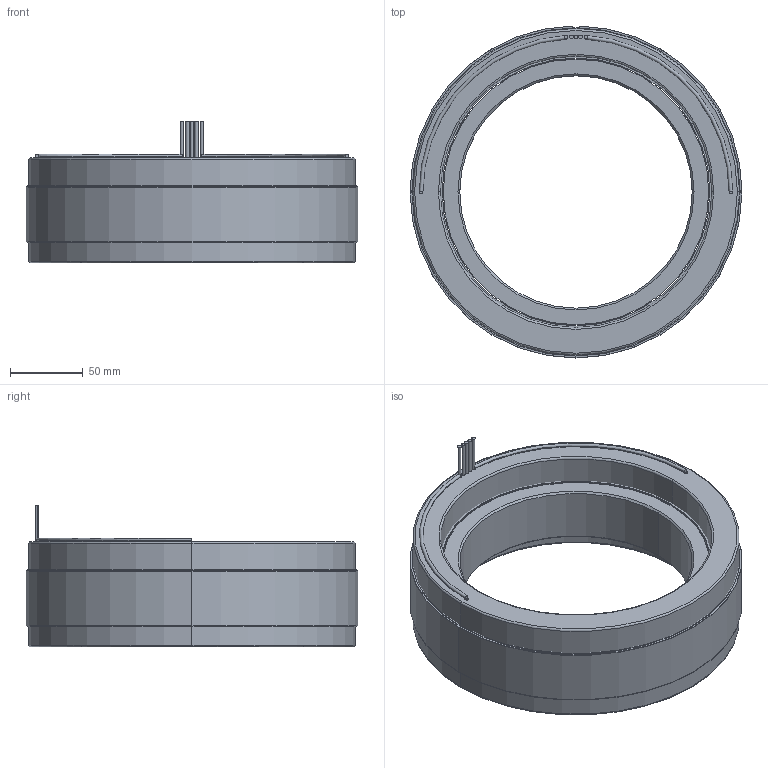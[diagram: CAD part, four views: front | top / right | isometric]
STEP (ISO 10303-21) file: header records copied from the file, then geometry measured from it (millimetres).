
FILE_DESCRIPTION (( 'STEP AP214' ), '1' );
FILE_NAME ('6100346-03.STEP', '2019-10-23T23:35:07', ( '' ), ( '' ), 'SwSTEP 2.0', 'SolidWorks 2016', '' );
FILE_SCHEMA (( 'AUTOMOTIVE_DESIGN' ));
Length unit declared in the file: millimetre
Products named in the file (10): 4150170-XX_4150170-03; 4500545-XX_4500545-03; 4400076-00; 4450183-XX_4450183-03; COMP4500545-XX(COIL)_COMP4500545-03(COIL); 4600525-00; 4250365-XX_4250365-03; 6100346-03
Assembly tree (10 placements, depth 4):
  6100346-03
    4500545-XX_4500545-03
      COMP4500545-XX(COIL)_COMP4500545-03(COIL)
      4450183-XX_4450183-03
        4450183-XX_4450183-03
        4400076-00
        4400076-00
        4600525-00  x2
    4250365-XX_4250365-03
      4150170-XX_4150170-03
Bounding box: 228.6 x 228.58 x 97.79 mm (x, y, z)
Volume: 1680446.9 mm3; surface area: 363691.7 mm2
Topology: 14 solids, 14 shells, 98 faces, 192 edges, 124 vertices
Faces by surface type: cylinder 52, plane 30, torus 12, cone 4
Entity records: 2875 total; most frequent: DIRECTION 524, CARTESIAN_POINT 404, ORIENTED_EDGE 360, AXIS2_PLACEMENT_3D 236, EDGE_CURVE 180, CIRCLE 128, VERTEX_POINT 116, EDGE_LOOP 106
